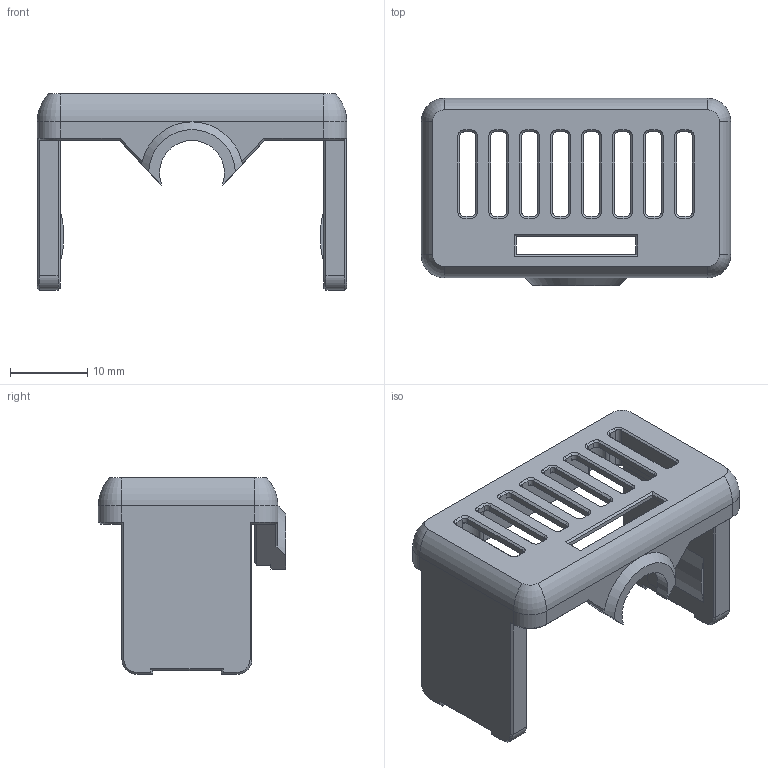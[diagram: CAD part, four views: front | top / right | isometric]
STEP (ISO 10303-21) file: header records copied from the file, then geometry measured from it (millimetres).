
FILE_DESCRIPTION(/* description */ ('STEP AP242','CAx-IF Rec.Pracs.---Representation and Presentation of Product Manufacturing Information (PMI)---4.0---2014-10-13','CAx-IF Rec.Pracs.---3D Tessellated Geometry---0.4---2014-09-14','2;1'),/* implementation_level */ '2;1');
FILE_NAME(/* name */ '66a0c9494748fe6d1b70af37',/* time_stamp */ '2024-07-24T09:28:42Z',/* author */ (''),/* organization */ (''),/* preprocessor_version */ 'ST-DEVELOPER v20',/* originating_system */ ' ',/* authorisation */ ' ');
FILE_SCHEMA (('AP242_MANAGED_MODEL_BASED_3D_ENGINEERING_MIM_LF { 1 0 10303 442 1 1 4 }'));
Length unit declared in the file: metre
Products named in the file (1): ESP32_Cam_Case_Top_Part
Bounding box: 40 x 24.2 x 25.42 mm (x, y, z)
Volume: 4767.6 mm3; surface area: 4304.9 mm2
Topology: 1 solids, 1 shells, 287 faces, 741 edges, 449 vertices
Faces by surface type: plane 163, cone 61, cylinder 59, torus 4
Entity records: 8646 total; most frequent: CARTESIAN_POINT 1586, ORIENTED_EDGE 1482, DIRECTION 1458, EDGE_CURVE 741, LINE 528, VECTOR 528, AXIS2_PLACEMENT_3D 465, VERTEX_POINT 449
